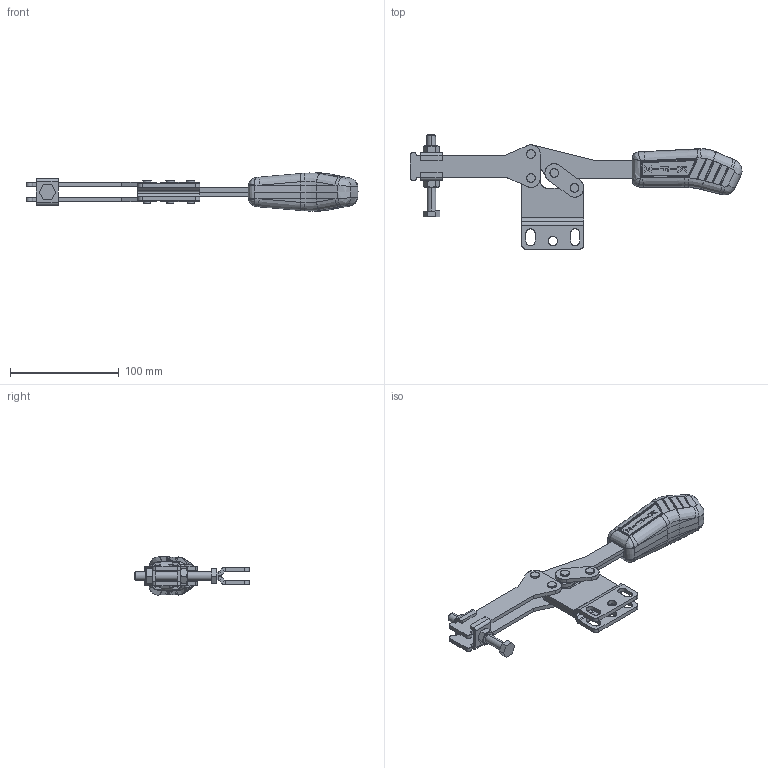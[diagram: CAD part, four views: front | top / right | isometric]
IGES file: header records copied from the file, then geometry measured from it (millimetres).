
Start section: SolidWorks IGES file using analytic representation for surfaces
Global section: file name: C:\Projetos\Grampos\KF-533\KF-533 R\KF-533 R.IGS; native system: SolidWorks 2013; preprocessor: SolidWorks 2013; author: Ricardo; date: 140818.135916; units: millimetre
Bounding box: 304.78 x 105.08 x 35.04 mm (x, y, z)
Surface area: 76638.8 mm2 (no closed solid volume)
Topology: 0 solids, 0 shells, 822 faces, 9612 edges, 9581 vertices
Faces by surface type: bspline 446, revolution 376
